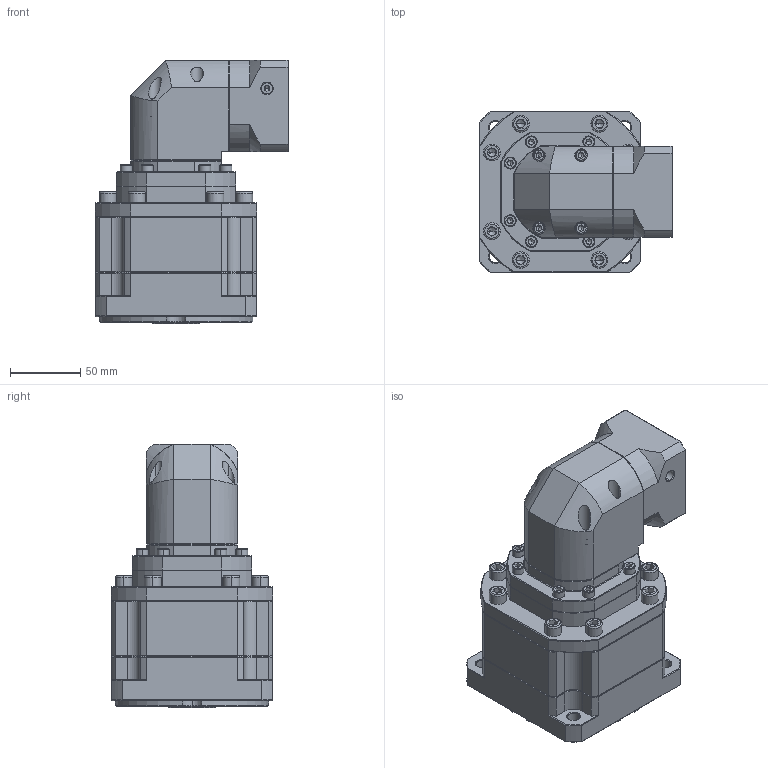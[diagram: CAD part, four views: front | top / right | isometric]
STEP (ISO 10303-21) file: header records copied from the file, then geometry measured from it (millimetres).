
FILE_DESCRIPTION (( 'STEP AP214' ), '1' );
FILE_NAME ('ZBR115A-K25-L3-P2-14-60-75-M6.step', '2023-08-26T14:09:08', ( '' ), ( '' ), 'SwSTEP 2.0', 'SolidWorks 2016', '' );
FILE_SCHEMA (( 'AUTOMOTIVE_DESIGN' ));
Length unit declared in the file: millimetre
Products named in the file (1): ZBR115A-K25-L3-P2-14-60-75-M6
Bounding box: 137.7 x 115 x 187.5 mm (x, y, z)
Volume: 1521459.7 mm3; surface area: 144662.5 mm2
Topology: 6 solids, 6 shells, 2577 faces, 6793 edges, 4336 vertices
Faces by surface type: plane 1292, cylinder 448, bspline 434, cone 383, torus 20
Entity records: 130922 total; most frequent: CARTESIAN_POINT 42107, ORIENTED_EDGE 13466, DIRECTION 11034, EDGE_CURVE 6733, VERTEX_POINT 4336, VECTOR 4320, LINE 4320, AXIS2_PLACEMENT_3D 3357
